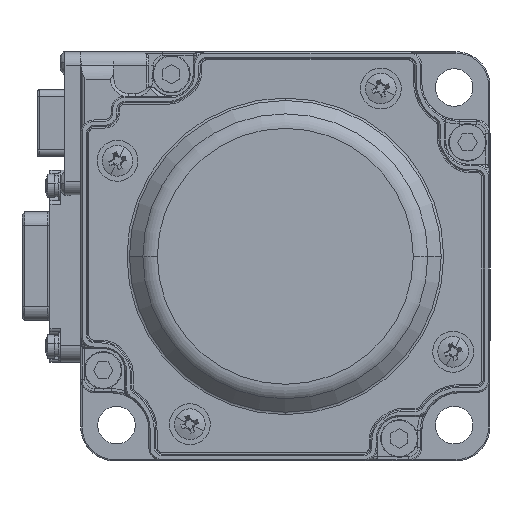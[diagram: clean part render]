
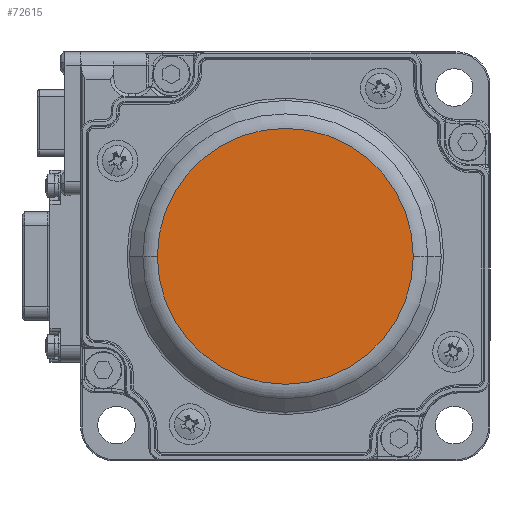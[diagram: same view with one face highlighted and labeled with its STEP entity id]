
A CAD part, left-side view. The second image highlights one B-rep face of the part: STEP entity #72615.
In plain terms, the highlighted planar face has unit normal (-1, 0, 0).
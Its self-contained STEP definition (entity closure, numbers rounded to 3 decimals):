
#72278 = EDGE_CURVE('',#72279,#72281,#72283,.T.);
#72279 = VERTEX_POINT('',#72280);
#72280 = CARTESIAN_POINT('',(-117.051,-57.145,
    157.079));
#72281 = VERTEX_POINT('',#72282);
#72282 = CARTESIAN_POINT('',(-117.051,-19.63,
    157.079));
#72283 = SURFACE_CURVE('',#72284,(#72289,#72301),.PCURVE_S1.);
#72284 = CIRCLE('',#72285,18.757);
#72285 = AXIS2_PLACEMENT_3D('',#72286,#72287,#72288);
#72286 = CARTESIAN_POINT('',(-117.051,-38.387,
    157.079));
#72287 = DIRECTION('',(-1.,0.,0.));
#72288 = DIRECTION('',(0.,1.,0.));
#72289 = PCURVE('',#72290,#72295);
#72290 = TOROIDAL_SURFACE('',#72291,18.757,3.);
#72291 = AXIS2_PLACEMENT_3D('',#72292,#72293,#72294);
#72292 = CARTESIAN_POINT('',(-114.051,-38.387,
    157.079));
#72293 = DIRECTION('',(1.,0.,0.));
#72294 = DIRECTION('',(0.,1.,0.));
#72295 = DEFINITIONAL_REPRESENTATION('',(#72296),#72300);
#72296 = LINE('',#72297,#72298);
#72297 = CARTESIAN_POINT('',(6.283,4.712));
#72298 = VECTOR('',#72299,1.);
#72299 = DIRECTION('',(-1.,0.));
#72300 = ( GEOMETRIC_REPRESENTATION_CONTEXT(2) 
PARAMETRIC_REPRESENTATION_CONTEXT() REPRESENTATION_CONTEXT('2D SPACE',''
  ) );
#72301 = PCURVE('',#72302,#72307);
#72302 = PLANE('',#72303);
#72303 = AXIS2_PLACEMENT_3D('',#72304,#72305,#72306);
#72304 = CARTESIAN_POINT('',(-117.051,-18.387,
    157.079));
#72305 = DIRECTION('',(1.,0.,0.));
#72306 = DIRECTION('',(0.,1.,0.));
#72307 = DEFINITIONAL_REPRESENTATION('',(#72308),#72316);
#72308 = ( BOUNDED_CURVE() B_SPLINE_CURVE(2,(#72309,#72310,#72311,#72312
    ,#72313,#72314,#72315),.UNSPECIFIED.,.T.,.F.) 
B_SPLINE_CURVE_WITH_KNOTS((1,2,2,2,2,1),(-2.094,0.,
    2.094,4.189,6.283,8.378),
.UNSPECIFIED.) CURVE() GEOMETRIC_REPRESENTATION_ITEM() 
RATIONAL_B_SPLINE_CURVE((1.,0.5,1.,0.5,1.,0.5,1.)) REPRESENTATION_ITEM(
  '') );
#72309 = CARTESIAN_POINT('',(-1.243,0.));
#72310 = CARTESIAN_POINT('',(-1.243,-32.489));
#72311 = CARTESIAN_POINT('',(-29.379,-16.244));
#72312 = CARTESIAN_POINT('',(-57.515,0.));
#72313 = CARTESIAN_POINT('',(-29.379,16.244));
#72314 = CARTESIAN_POINT('',(-1.243,32.489));
#72315 = CARTESIAN_POINT('',(-1.243,0.));
#72316 = ( GEOMETRIC_REPRESENTATION_CONTEXT(2) 
PARAMETRIC_REPRESENTATION_CONTEXT() REPRESENTATION_CONTEXT('2D SPACE',''
  ) );
#72335 = TOROIDAL_SURFACE('',#72336,18.757,3.);
#72336 = AXIS2_PLACEMENT_3D('',#72337,#72338,#72339);
#72337 = CARTESIAN_POINT('',(-114.051,-38.387,
    157.079));
#72338 = DIRECTION('',(1.,0.,0.));
#72339 = DIRECTION('',(0.,1.,0.));
#72615 = ADVANCED_FACE('',(#72616),#72302,.F.);
#72616 = FACE_BOUND('',#72617,.T.);
#72617 = EDGE_LOOP('',(#72618,#72644));
#72618 = ORIENTED_EDGE('',*,*,#72619,.T.);
#72619 = EDGE_CURVE('',#72281,#72279,#72620,.T.);
#72620 = SURFACE_CURVE('',#72621,(#72626,#72637),.PCURVE_S1.);
#72621 = CIRCLE('',#72622,18.757);
#72622 = AXIS2_PLACEMENT_3D('',#72623,#72624,#72625);
#72623 = CARTESIAN_POINT('',(-117.051,-38.387,
    157.079));
#72624 = DIRECTION('',(-1.,0.,0.));
#72625 = DIRECTION('',(0.,1.,0.));
#72626 = PCURVE('',#72302,#72627);
#72627 = DEFINITIONAL_REPRESENTATION('',(#72628),#72636);
#72628 = ( BOUNDED_CURVE() B_SPLINE_CURVE(2,(#72629,#72630,#72631,#72632
    ,#72633,#72634,#72635),.UNSPECIFIED.,.T.,.F.) 
B_SPLINE_CURVE_WITH_KNOTS((1,2,2,2,2,1),(-2.094,0.,
    2.094,4.189,6.283,8.378),
.UNSPECIFIED.) CURVE() GEOMETRIC_REPRESENTATION_ITEM() 
RATIONAL_B_SPLINE_CURVE((1.,0.5,1.,0.5,1.,0.5,1.)) REPRESENTATION_ITEM(
  '') );
#72629 = CARTESIAN_POINT('',(-1.243,0.));
#72630 = CARTESIAN_POINT('',(-1.243,-32.489));
#72631 = CARTESIAN_POINT('',(-29.379,-16.244));
#72632 = CARTESIAN_POINT('',(-57.515,0.));
#72633 = CARTESIAN_POINT('',(-29.379,16.244));
#72634 = CARTESIAN_POINT('',(-1.243,32.489));
#72635 = CARTESIAN_POINT('',(-1.243,0.));
#72636 = ( GEOMETRIC_REPRESENTATION_CONTEXT(2) 
PARAMETRIC_REPRESENTATION_CONTEXT() REPRESENTATION_CONTEXT('2D SPACE',''
  ) );
#72637 = PCURVE('',#72335,#72638);
#72638 = DEFINITIONAL_REPRESENTATION('',(#72639),#72643);
#72639 = LINE('',#72640,#72641);
#72640 = CARTESIAN_POINT('',(6.283,4.712));
#72641 = VECTOR('',#72642,1.);
#72642 = DIRECTION('',(-1.,0.));
#72643 = ( GEOMETRIC_REPRESENTATION_CONTEXT(2) 
PARAMETRIC_REPRESENTATION_CONTEXT() REPRESENTATION_CONTEXT('2D SPACE',''
  ) );
#72644 = ORIENTED_EDGE('',*,*,#72278,.T.);
